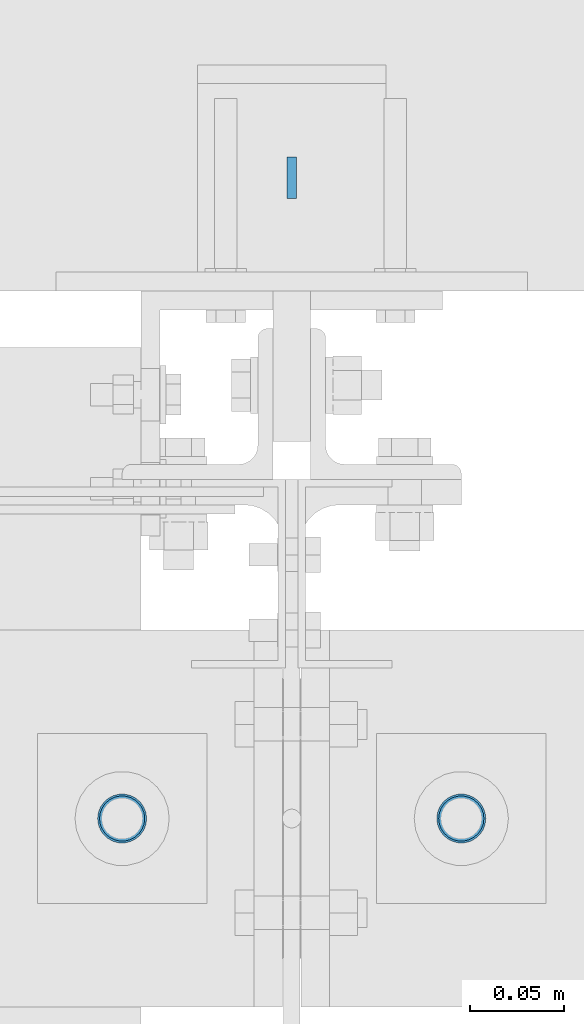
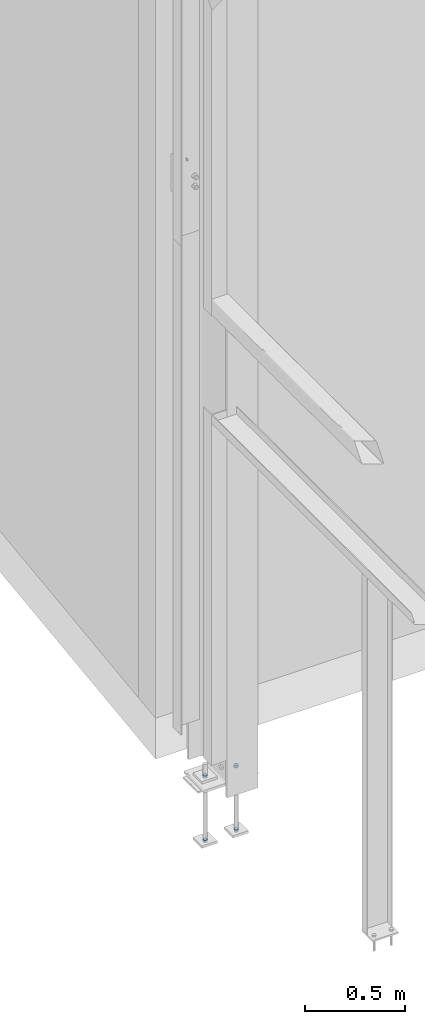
# One storey, part 103 of 123: 5 mechanical fasteners, 2 elements without a shape of their own.
"""IFC2X3 building model written with IfcOpenShell, lengths in millimetres."""

from ifc_helpers import new_model, si_unit, frame, origin_with_axes, origin_2d_with_axis, place, context, subcontext, project, spatial, circle, extrude, source, transform, mapped, material, type_object, element, aggregate, save


model = new_model("IFC2X3")

# Units and contexts
model_context = context("Model", 3, precision=1e-05, world=origin_with_axes())
body_context = subcontext(model_context, "Body", "Model", "MODEL_VIEW")
ifc_project = project(units=[si_unit("LENGTHUNIT", "METRE", prefix="MILLI"), si_unit("AREAUNIT", "SQUARE_METRE"), si_unit("VOLUMEUNIT", "CUBIC_METRE"), si_unit("MASSUNIT", "GRAM", prefix="KILO"), si_unit("TIMEUNIT", "SECOND"), si_unit("PLANEANGLEUNIT", "RADIAN"), si_unit("SOLIDANGLEUNIT", "STERADIAN"), si_unit("THERMODYNAMICTEMPERATUREUNIT", "DEGREE_CELSIUS"), si_unit("LUMINOUSINTENSITYUNIT", "LUMEN")], contexts=[model_context])

# Site, building, storey
site_placement = place(None, origin_with_axes())
site = spatial("IfcSite", under=ifc_project, at=site_placement, Name="Undefined", CompositionType="ELEMENT")
building_placement = place(site_placement, origin_with_axes())
building = spatial("IfcBuilding", under=site, at=building_placement, Name="Undefined", CompositionType="ELEMENT")
storey_placement = place(building_placement, origin_with_axes())
storey = spatial("IfcBuildingStorey", under=building, at=storey_placement, Name="Undefined", CompositionType="ELEMENT", Elevation=0.0)

# Assembly, mechanical fastener
assembly_1_placement = place(storey_placement, origin_with_axes())
assembly_1 = element("IfcElementAssembly", 1, at=assembly_1_placement, inside=storey, Name="Steel Assembly", AssemblyPlace="NOTDEFINED", PredefinedType="RIGID_FRAME")
ifc_material = material(Name="6.8")
discrete_accessory_type = type_object("IfcDiscreteAccessoryType", Name="Bolt assembly")
shared_shape_1 = source(origin_with_axes(), body_context, "Body", "SweptSolid", [
    extrude(circle(Radius=11.0, at=origin_2d_with_axis()), frame((0.0, -2.5, 0.0), z_axis=(0.0, 1.0, 0.0), x_axis=(1.0, 0.0, 0.0)), (0.0, 0.0, 1.0), 5.1),
])
mechanical_fastener_1_placement = place(assembly_1_placement, frame((0.0, 15450.0, 3315.0), z_axis=(0.0, 0.0, 1.0), x_axis=(0.0, -1.0, 0.0)))
mechanical_fastener_1 = element("IfcMechanicalFastener", 2, at=mechanical_fastener_1_placement, type_object=discrete_accessory_type, material=ifc_material, Name="Bolt assembly", NominalDiameter=20.0, NominalLength=5.0, context=body_context, shape_type="MappedRepresentation", body=[
    mapped(shared_shape_1, transform((0.0, 0.0, 0.0))),
])
aggregate(assembly_1, [mechanical_fastener_1])

# Assembly, mechanical fasteners
assembly_2_placement = place(storey_placement, origin_with_axes())
assembly_2 = element("IfcElementAssembly", 3, at=assembly_2_placement, inside=storey, Name="Steel Assembly", AssemblyPlace="NOTDEFINED", PredefinedType="RIGID_FRAME")
shared_shape_2 = source(origin_with_axes(), body_context, "Body", "SweptSolid", [
    extrude(circle(Radius=13.0, at=origin_2d_with_axis()), frame((0.0, -15.0, 0.0), z_axis=(0.0, 1.0, 0.0), x_axis=(1.0, 0.0, 0.0)), (0.0, 0.0, 1.0), 15.1),
])
mechanical_fastener_2_placement = place(assembly_2_placement, frame((-90.0028495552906, 15109.9999996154, -235.0), z_axis=(0.0, -1.0, 0.0), x_axis=(-1.0, 0.0, 0.0)))
mechanical_fastener_2 = element("IfcMechanicalFastener", 4, at=mechanical_fastener_2_placement, type_object=discrete_accessory_type, material=ifc_material, Name="Bolt assembly", NominalDiameter=24.0, NominalLength=15.0, context=body_context, shape_type="MappedRepresentation", body=[
    mapped(shared_shape_2, transform((0.0, 0.0, 0.0))),
])
mechanical_fastener_3_placement = place(assembly_2_placement, frame((89.9971504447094, 15109.9999996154, -235.0), z_axis=(0.0, -1.0, 0.0), x_axis=(-1.0, 0.0, 0.0)))
mechanical_fastener_3 = element("IfcMechanicalFastener", 5, at=mechanical_fastener_3_placement, type_object=discrete_accessory_type, material=ifc_material, Name="Bolt assembly", NominalDiameter=24.0, NominalLength=15.0, context=body_context, shape_type="MappedRepresentation", body=[
    mapped(shared_shape_2, transform((0.0, 0.0, 0.0))),
])
shared_shape_3 = source(origin_with_axes(), body_context, "Body", "SweptSolid", [
    extrude(circle(Radius=12.0, at=origin_2d_with_axis()), frame((0.0, -15.0, 0.0), z_axis=(0.0, 1.0, 0.0), x_axis=(1.0, 0.0, 0.0)), (0.0, 0.0, 1.0), 15.1),
])
mechanical_fastener_4_placement = place(assembly_2_placement, frame((-90.0028495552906, 15109.9999996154, -630.0), z_axis=(0.0, -1.0, 0.0), x_axis=(-1.0, 0.0, 0.0)))
mechanical_fastener_4 = element("IfcMechanicalFastener", 6, at=mechanical_fastener_4_placement, type_object=discrete_accessory_type, material=ifc_material, Name="Bolt assembly", NominalDiameter=22.0, NominalLength=15.0, context=body_context, shape_type="MappedRepresentation", body=[
    mapped(shared_shape_3, transform((0.0, 0.0, 0.0))),
])
mechanical_fastener_5_placement = place(assembly_2_placement, frame((89.9971504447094, 15109.9999996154, -630.0), z_axis=(0.0, -1.0, 0.0), x_axis=(-1.0, 0.0, 0.0)))
mechanical_fastener_5 = element("IfcMechanicalFastener", 7, at=mechanical_fastener_5_placement, type_object=discrete_accessory_type, material=ifc_material, Name="Bolt assembly", NominalDiameter=22.0, NominalLength=15.0, context=body_context, shape_type="MappedRepresentation", body=[
    mapped(shared_shape_3, transform((0.0, 0.0, 0.0))),
])
aggregate(assembly_2, [mechanical_fastener_2, mechanical_fastener_3, mechanical_fastener_4, mechanical_fastener_5])

save(model, "model.ifc")
